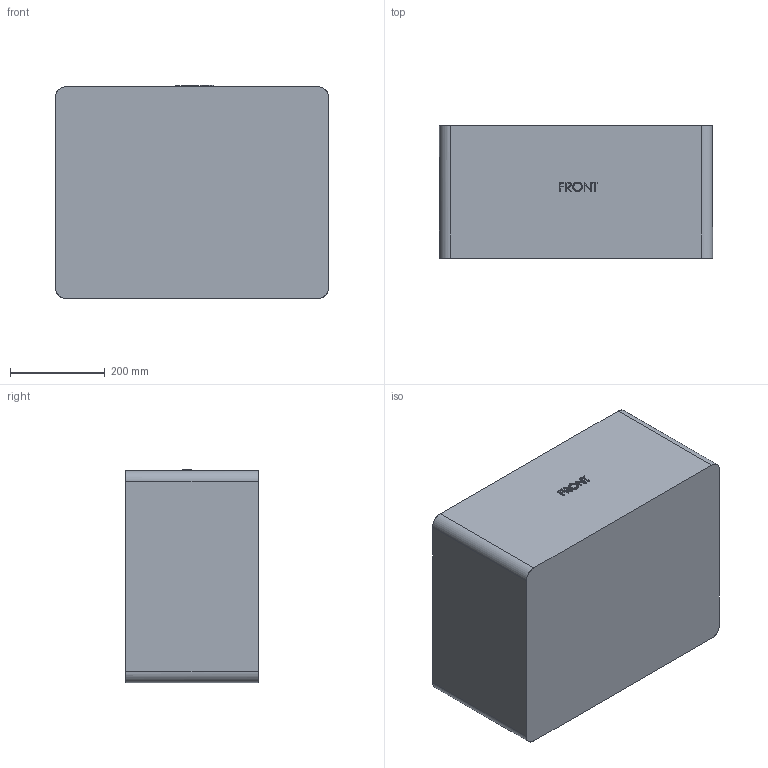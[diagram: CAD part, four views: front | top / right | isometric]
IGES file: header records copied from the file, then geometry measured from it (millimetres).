
Start section: SolidWorks IGES file using analytic representation for surfaces
Global section: file name: Q:\_Engineering Public\case_iges\1620\1620bot.IGS; native system: SolidWorks 2005 by SolidWorks Corporation; preprocessor: SolidWorks 2005 by SolidWorks Corporation; author: btennant; date: 050506.155913; units: inch
Bounding box: 575.56 x 279.4 x 449.32 mm (x, y, z)
Surface area: 1568524.4 mm2 (no closed solid volume)
Topology: 0 solids, 0 shells, 770 faces, 8347 edges, 8340 vertices
Faces by surface type: bspline 528, revolution 242
